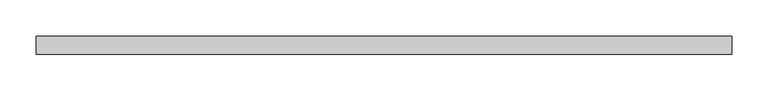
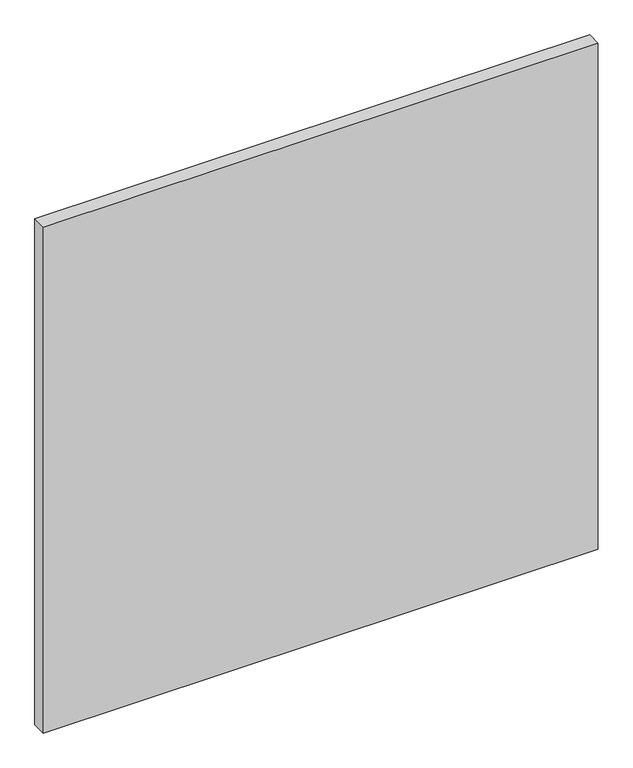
"""IFC4 building model written with IfcOpenShell, lengths in millimetres: plate geometry, Системная панель : ADSK_Cтеклопакет_25."""

from ifc_helpers import new_model, si_unit, origin, origin_with_axes, place, context, project, spatial, polyline, outline, extrude, source, transform, mapped, element, save


def plate_5ef37916(model_context):
    return source(origin(), model_context, "Body", "SweptSolid", [
        extrude(outline(polyline([(480.0, -12.5), (-480.0, -12.5), (-480.0, 12.5), (480.0, 12.5), (480.0, -12.5)])), origin_with_axes(), (0.0, 0.0, 1.0), 925.0),
    ])


if __name__ == "__main__":
    model = new_model("IFC4")
    model_context = context("Model", 3, world=origin())
    ifc_project = project(units=[si_unit("LENGTHUNIT", "METRE", prefix="MILLI")], contexts=[model_context])
    site = spatial("IfcSite", under=ifc_project)
    building = spatial("IfcBuilding", under=site)
    placement = place(None, origin())
    plate_shape = plate_5ef37916(model_context)
    element("IfcPlate", 1, ObjectType="Системная панель : ADSK_Cтеклопакет_25", at=placement, inside=building, context=model_context, shape_type="MappedRepresentation", body=[
        mapped(plate_shape, transform((0.0, 0.0, 0.0), x_axis=(1.0, 0.0, 0.0), y_axis=(0.0, 1.0, 0.0), z_axis=(0.0, 0.0, 1.0))),
    ])
    save(model, "model.ifc")
